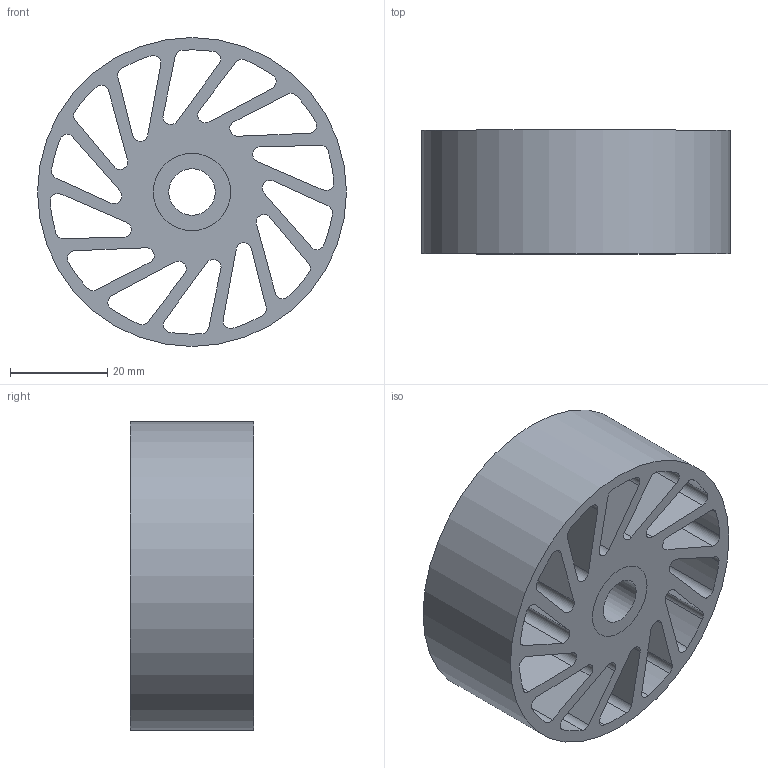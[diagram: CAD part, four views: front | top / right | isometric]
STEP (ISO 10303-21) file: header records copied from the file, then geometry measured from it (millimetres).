
FILE_DESCRIPTION(/* description */ (''),/* implementation_level */ '2;1');
FILE_NAME(/* name */ 'C:\Users\Owner\Desktop\Meridian Stuff\NCWOB-310-XXX.stp',/* time_stamp */ '2023-05-22T16:25:17-05:00',/* author */ ('ASG'),/* organization */ ('Meridian Laboratory '),/* preprocessor_version */ 'ST-DEVELOPER v19',/* originating_system */ 'Autodesk Inventor 2023',/* authorisation */ '');
FILE_SCHEMA (('AUTOMOTIVE_DESIGN { 1 0 10303 214 3 1 1 }'));
Length unit declared in the file: inch
Products named in the file (1): NCWOB-300-XXX
Bounding box: 63.5 x 25.4 x 63.5 mm (x, y, z)
Volume: 43284.7 mm3; surface area: 27146.6 mm2
Topology: 2 solids, 2 shells, 92 faces, 264 edges, 176 vertices
Faces by surface type: cylinder 60, plane 32
Full cylindrical faces by diameter (mm): 9.55 x1, 15.875 x2, 63.5 x1
Entity records: 3285 total; most frequent: DIRECTION 570, CARTESIAN_POINT 533, ORIENTED_EDGE 528, EDGE_CURVE 264, AXIS2_PLACEMENT_3D 213, VERTEX_POINT 176, LINE 144, VECTOR 144
